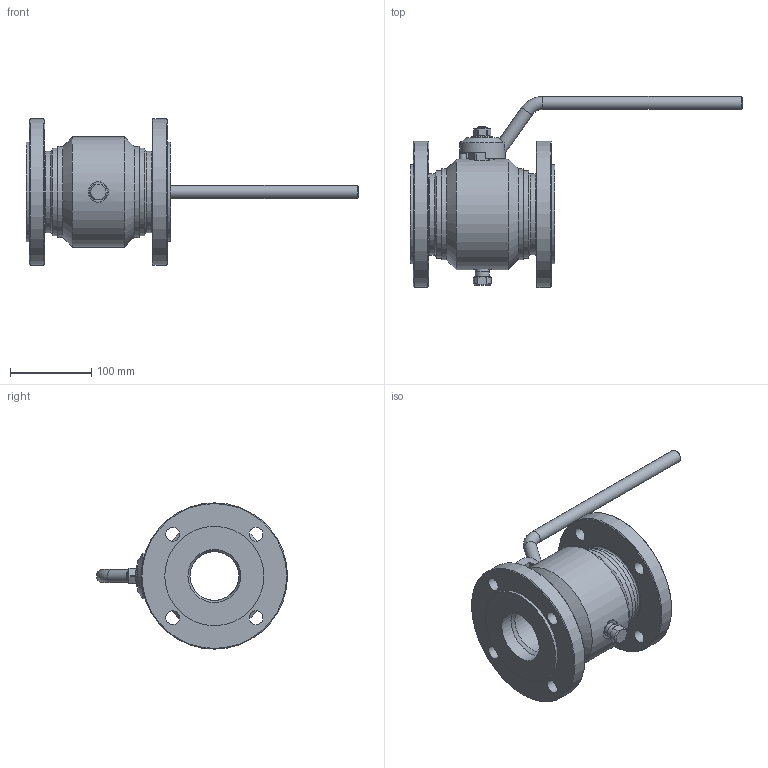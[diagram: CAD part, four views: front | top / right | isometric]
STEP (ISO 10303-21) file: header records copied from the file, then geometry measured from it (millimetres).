
FILE_DESCRIPTION(('STEP AP203'), '1');
FILE_NAME('ZARD 065.016.21.P.stp', '2013-12-06T08:45:49', ('User'), ('Computer'), 'ASCON STEP Converter 1.3', 'Kompas 3D', '');
FILE_SCHEMA(('CONFIG_CONTROL_DESIGN','SUPPORT_RESOURCE_SCHEMA'));
Length unit declared in the file: millimetre
Products named in the file (1): 212
Bounding box: 408.31 x 235 x 180 mm (x, y, z)
Volume: 2071028.9 mm3; surface area: 247925.4 mm2
Topology: 1 solids, 5 shells, 190 faces, 430 edges, 263 vertices
Faces by surface type: plane 72, cylinder 65, cone 41, torus 12
Full cylindrical faces by diameter (mm): 8 x2, 12 x2, 14.141 x1, 16 x2, 17 x8, 17.33 x1, 22 x1, 24 x3, 24.1 x1, 25 x1, 26 x1, 31.8 x1, 32 x1, 35 x2, 56 x1, 60 x2, 65 x2, 97.8 x1, 100 x2, 108 x2, 112 x2, 122 x2, 136 x1, 180 x2
Entity records: 7760 total; most frequent: CARTESIAN_POINT 3326, DIRECTION 945, ORIENTED_EDGE 860, EDGE_CURVE 430, AXIS2_PLACEMENT_3D 388, VERTEX_POINT 263, EDGE_LOOP 237, CIRCLE 197
